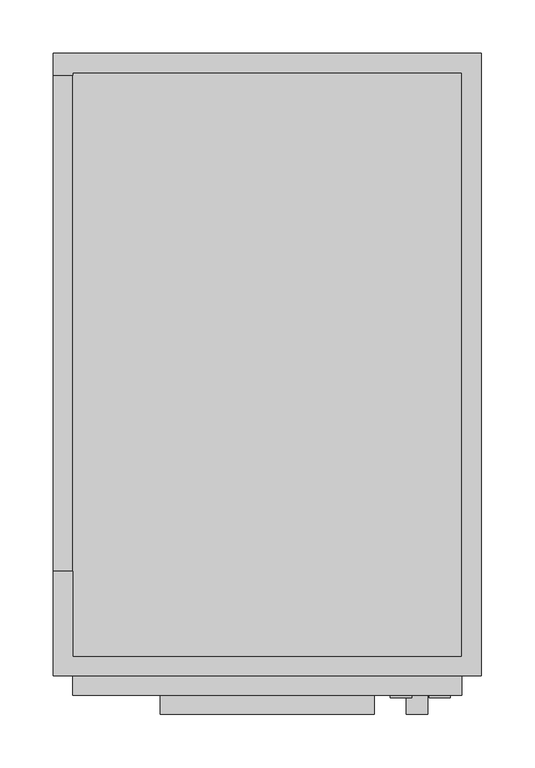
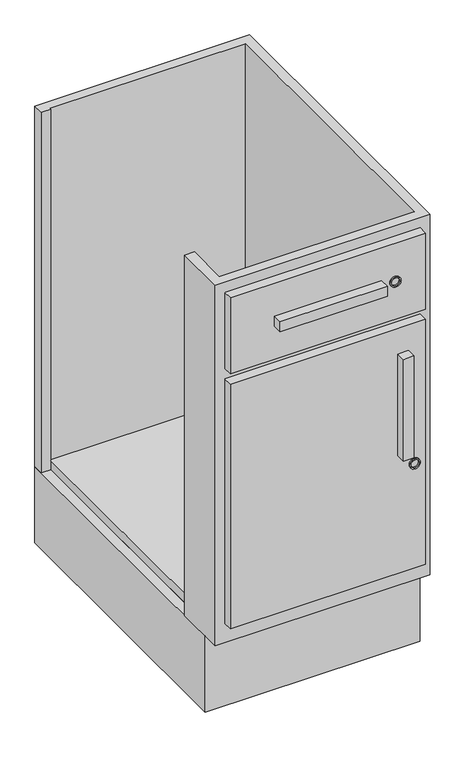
"""IFC4 building model written with IfcOpenShell, lengths in millimetres: proxy geometry, BIMHealth-400x600mm_Base_Unit_with_drawer_lockable-LOD2A-v1 : BIMHealth-400x600mm_Base_Unit_with_drawer_lockable-LOD2A-v1."""

import ifcopenshell
import ifcopenshell.guid

model = None  # the IFC model being written
_history = None  # IfcOwnerHistory: only IFC2X3 demands one
_inside = {}  # id of a spatial element -> (the spatial element, [elements in it])
_under = {}  # id of a project, library or spatial element -> (it, [spatial elements below it])
_declared = {}  # id of a project -> (the project, [libraries it declares])
_typed = {}  # id of a type object -> (the type object, [elements of that type])
_made_of = {}  # id of a material, layer set ... -> (it, [elements and type objects made of it])


def new_model(schema):
    """Start an empty IFC model of exactly this schema.

    Asked for "IFC4X3", IfcOpenShell would pick the latest addendum, in which some entities
    have other attributes; the version numbers below select the first issue.
    IFC2X3 requires an IfcOwnerHistory on every rooted entity: one is made here for all.
    """
    global model, _history
    if schema == "IFC4X3":
        model = ifcopenshell.file(schema_version=(4, 3, 0, 0))
    else:
        model = ifcopenshell.file(schema=schema)
    _inside.clear()
    _under.clear()
    _declared.clear()
    _typed.clear()
    _made_of.clear()
    _history = None
    if model.schema == "IFC2X3":
        org = make("IfcOrganization", Name="unknown")
        user = make(
            "IfcPersonAndOrganization",
            ThePerson=make("IfcPerson", FamilyName="unknown"),
            TheOrganization=org,
        )
        app = make(
            "IfcApplication",
            ApplicationDeveloper=org,
            Version="unknown",
            ApplicationFullName="unknown",
            ApplicationIdentifier="unknown",
        )
        _history = make(
            "IfcOwnerHistory",
            OwningUser=user,
            OwningApplication=app,
            ChangeAction="ADDED",
            CreationDate=0,
        )
    return model


def make(cls, **values):
    """One entity of the class cls with the attributes given. An attribute that is None is left unset."""
    return model.create_entity(
        cls, **{name: value for name, value in values.items() if value is not None}
    )


def rooted(cls, **values):
    """An entity with a GlobalId (a new one), such as an element, a storey or a relation."""
    return make(cls, GlobalId=ifcopenshell.guid.new(), OwnerHistory=_history, **values)


def si_unit(unit_type, name, prefix=None):
    """IfcSIUnit, for example si_unit("LENGTHUNIT", "METRE", prefix="MILLI")."""
    return make("IfcSIUnit", UnitType=unit_type, Prefix=prefix, Name=name)


def assignment(units):
    """IfcUnitAssignment: the units of a project."""
    return None if units is None else make("IfcUnitAssignment", Units=units)


def point(xyz):
    """IfcCartesianPoint."""
    return None if xyz is None else make("IfcCartesianPoint", Coordinates=xyz)


def direction(xyz):
    """IfcDirection."""
    return None if xyz is None else make("IfcDirection", DirectionRatios=xyz)


def frame(location, z_axis=None, x_axis=None):
    """IfcAxis2Placement3D, a coordinate frame: its origin and axes. An axis left out is left unset."""
    return make(
        "IfcAxis2Placement3D",
        Location=point(location),
        Axis=direction(z_axis),
        RefDirection=direction(x_axis),
    )


def frame_2d(location, x_axis=None):
    """IfcAxis2Placement2D, a coordinate frame in the plane: its origin and x axis."""
    return make(
        "IfcAxis2Placement2D", Location=point(location), RefDirection=direction(x_axis)
    )


def origin():
    """The frame at (0, 0, 0) with its axes left unset."""
    return frame((0.0, 0.0, 0.0))


def origin_with_axes():
    """The frame at (0, 0, 0) with the z axis (0, 0, 1) and the x axis (1, 0, 0) written out."""
    return frame((0.0, 0.0, 0.0), z_axis=(0.0, 0.0, 1.0), x_axis=(1.0, 0.0, 0.0))


def place(relative_to, where):
    """IfcLocalPlacement: puts the frame where relative to a parent placement (None: the world)."""
    return make(
        "IfcLocalPlacement", PlacementRelTo=relative_to, RelativePlacement=where
    )


def context(
    kind, dimensions, precision=None, world=None, true_north=None, identifier=None
):
    """IfcGeometricRepresentationContext, for example the 3D "Model" context."""
    return make(
        "IfcGeometricRepresentationContext",
        ContextIdentifier=identifier,
        ContextType=kind,
        CoordinateSpaceDimension=dimensions,
        Precision=precision,
        WorldCoordinateSystem=world,
        TrueNorth=true_north,
    )


def project(units=None, contexts=None):
    """IfcProject with its units and contexts."""
    return rooted(
        "IfcProject",
        Name="project",
        RepresentationContexts=contexts,
        UnitsInContext=assignment(units),
    )


def spatial(cls, under=None, at=None, **own):
    """A site, building, storey or space (cls), placed at a placement, below another one or the project."""
    s = rooted(cls, ObjectPlacement=at, **own)
    if under is not None:
        _under.setdefault(under.id(), (under, []))[1].append(s)
    return s


def polyline(points):
    """IfcPolyline through the points."""
    return make("IfcPolyline", Points=[point(p) for p in points])


def circle_curve(where, radius):
    """IfcCircle in the frame where."""
    return make("IfcCircle", Position=where, Radius=radius)


def trimmed(basis, trim1, trim2, sense, master):
    """IfcTrimmedCurve: the piece of a basis curve between two trims."""
    return make(
        "IfcTrimmedCurve",
        BasisCurve=basis,
        Trim1=trim1,
        Trim2=trim2,
        SenseAgreement=sense,
        MasterRepresentation=master,
    )


def segment(curve, same_sense, transition):
    """IfcCompositeCurveSegment."""
    return make(
        "IfcCompositeCurveSegment",
        Transition=transition,
        SameSense=same_sense,
        ParentCurve=curve,
    )


def composite_curve(segments, self_intersect=None):
    """IfcCompositeCurve: segments joined end to end."""
    return make("IfcCompositeCurve", Segments=segments, SelfIntersect=self_intersect)


def outline(outer, holes=None, kind="AREA"):
    """IfcArbitraryClosedProfileDef: a profile drawn as a closed curve; with holes, ...WithVoids."""
    if holes is None:
        return make("IfcArbitraryClosedProfileDef", ProfileType=kind, OuterCurve=outer)
    return make(
        "IfcArbitraryProfileDefWithVoids",
        ProfileType=kind,
        OuterCurve=outer,
        InnerCurves=holes,
    )


def extrude(swept, where, along, depth):
    """IfcExtrudedAreaSolid: the profile swept, set in the frame where, extruded along a direction by depth."""
    return make(
        "IfcExtrudedAreaSolid",
        SweptArea=swept,
        Position=where,
        ExtrudedDirection=direction(along),
        Depth=depth,
    )


def faces_of(points, faces, orient=None, outer=None):
    """IfcFace entities. A face is a list of loops; a loop is a list of indices into points, from 0.

    orient and outer hold one flag for each loop. By default every Orientation is true, the
    first loop of a face is its IfcFaceOuterBound and the others are IfcFaceBound.
    """
    made = []
    for i, loops in enumerate(faces):
        bounds = []
        for j, loop in enumerate(loops):
            is_outer = j == 0 if outer is None else outer[i][j]
            bounds.append(
                make(
                    "IfcFaceOuterBound" if is_outer else "IfcFaceBound",
                    Bound=make("IfcPolyLoop", Polygon=[points[k] for k in loop]),
                    Orientation=True if orient is None else orient[i][j],
                )
            )
        made.append(make("IfcFace", Bounds=bounds))
    return made


def faceted_brep(points, faces, orient=None, outer=None, voids=None):
    """IfcFacetedBrep: a solid bounded by flat faces; with voids (closed shells), ...WithVoids."""
    shared = [point(p) for p in points]
    hull = make("IfcClosedShell", CfsFaces=faces_of(shared, faces, orient, outer))
    if voids is None:
        return make("IfcFacetedBrep", Outer=hull)
    return make(
        "IfcFacetedBrepWithVoids",
        Outer=hull,
        Voids=[
            make(cls, CfsFaces=faces_of(shared, fs, o, b)) for cls, fs, o, b in voids
        ],
    )


def shape(context_of_items, identifier, shape_type, items):
    """IfcShapeRepresentation: the items that make up one representation, for example the "Body"."""
    return make(
        "IfcShapeRepresentation",
        ContextOfItems=context_of_items,
        RepresentationIdentifier=identifier,
        RepresentationType=shape_type,
        Items=items,
    )


def source(mapping_origin, context_of_items, identifier, shape_type, items):
    """IfcRepresentationMap: a shape defined once, which mapped items show again and again."""
    return make(
        "IfcRepresentationMap",
        MappingOrigin=mapping_origin,
        MappedRepresentation=shape(context_of_items, identifier, shape_type, items),
    )


def transform(
    local_origin,
    x_axis=None,
    y_axis=None,
    z_axis=None,
    scale=None,
    scale2=None,
    scale3=None,
    uniform=True,
):
    """IfcCartesianTransformationOperator3D, or its non-uniform kind. x_axis, y_axis, z_axis: its Axis1, 2, 3."""
    if uniform:
        return make(
            "IfcCartesianTransformationOperator3D",
            Axis1=direction(x_axis),
            Axis2=direction(y_axis),
            LocalOrigin=point(local_origin),
            Scale=scale,
            Axis3=direction(z_axis),
        )
    return make(
        "IfcCartesianTransformationOperator3DnonUniform",
        Axis1=direction(x_axis),
        Axis2=direction(y_axis),
        LocalOrigin=point(local_origin),
        Scale=scale,
        Axis3=direction(z_axis),
        Scale2=scale2,
        Scale3=scale3,
    )


def mapped(mapping_source, mapping_target):
    """IfcMappedItem: shows the shape of a source again, moved by a transform."""
    return make(
        "IfcMappedItem", MappingSource=mapping_source, MappingTarget=mapping_target
    )


def made_of(thing, what):
    """Note that an element or type object is made of a material, layer set ...; save() writes the relation."""
    if what is not None:
        _made_of.setdefault(what.id(), (what, []))[1].append(thing)
    return thing


def element(
    cls,
    number,
    at=None,
    inside=None,
    cuts=None,
    type_object=None,
    material=None,
    context=None,
    identifier="Body",
    shape_type=None,
    held_by="IfcProductDefinitionShape",
    body=None,
    shapes=None,
    **own,
):
    """One element of the class cls, such as IfcWall. Its Tag is "e" and its number.

    at: its placement. inside: the storey or other place that contains it. cuts: it is an
    opening in that element (IfcRelVoidsElement). A single representation is given by context,
    identifier, shape_type and body (its items); several are given by shapes. held_by: the class
    of the entity that holds the representations. save() writes the other relations.
    """
    e = rooted(cls, Tag="e%d" % number, ObjectPlacement=at, **own)
    if body is not None:
        shapes = [shape(context, identifier, shape_type, body)]
    if shapes is not None:
        e.Representation = make(held_by, Representations=shapes)
    if inside is not None:
        _inside.setdefault(inside.id(), (inside, []))[1].append(e)
    if cuts is not None:
        rooted(
            "IfcRelVoidsElement", RelatingBuildingElement=cuts, RelatedOpeningElement=e
        )
    if type_object is not None:
        _typed.setdefault(type_object.id(), (type_object, []))[1].append(e)
    return made_of(e, material)


def aggregate(whole, parts):
    """IfcRelAggregates: a whole, such as a stair, and the parts it consists of."""
    return rooted("IfcRelAggregates", RelatingObject=whole, RelatedObjects=parts)


def save(model, path):
    """Write the relations noted so far, then the file.

    IfcRelAggregates (storeys below a building ...), IfcRelContainedInSpatialStructure (elements
    in a storey), IfcRelDefinesByType, IfcRelAssociatesMaterial and IfcRelDeclares: one each for
    every whole, place, type object, material and project.
    """
    for whole, parts in _under.values():
        aggregate(whole, parts)
    for where, things in _inside.values():
        rooted(
            "IfcRelContainedInSpatialStructure",
            RelatedElements=things,
            RelatingStructure=where,
        )
    for kind, things in _typed.values():
        rooted("IfcRelDefinesByType", RelatedObjects=things, RelatingType=kind)
    for what, things in _made_of.values():
        rooted("IfcRelAssociatesMaterial", RelatedObjects=things, RelatingMaterial=what)
    for by, libraries in _declared.values():
        rooted("IfcRelDeclares", RelatingContext=by, RelatedDefinitions=libraries)
    model.write(path)


def generic_models_4d1d25b3(model_context):
    return source(origin(), model_context, "Body", "SolidModel", [
        extrude(outline(composite_curve([segment(trimmed(circle_curve(frame_2d((394.5110604, 361.1811485)), 10.0), [point((394.5110604, 351.1811485))], [point((394.5110604, 371.1811485))], False, "CARTESIAN"), True, "CONTINUOUS"), segment(trimmed(circle_curve(frame_2d((394.5110604, 361.1811485)), 10.0), [point((394.5110604, 371.1811485))], [point((394.5110604, 351.1811485))], False, "CARTESIAN"), True, "CONTINUOUS")], self_intersect=False), holes=[composite_curve([segment(trimmed(circle_curve(frame_2d((394.5110604, 361.1811485)), 7.5), [point((394.5110604, 353.6811485))], [point((394.5110604, 368.6811485))], True, "CARTESIAN"), True, "CONTINUOUS"), segment(trimmed(circle_curve(frame_2d((394.5110604, 361.1811485)), 7.5), [point((394.5110604, 368.6811485))], [point((394.5110604, 353.6811485))], True, "CARTESIAN"), True, "CONTINUOUS")], self_intersect=False)]), frame((0.0, -602.5, 0.0), z_axis=(0.0, 1.0, 0.0), x_axis=(0.0, 0.0, 1.0)), (0.0, 0.0, 1.0), 2.5),
        extrude(outline(composite_curve([segment(trimmed(circle_curve(frame_2d((765.0, 325.0)), 10.0), [point((765.0, 315.0))], [point((765.0, 335.0))], False, "CARTESIAN"), True, "CONTINUOUS"), segment(trimmed(circle_curve(frame_2d((765.0, 325.0)), 10.0), [point((765.0, 335.0))], [point((765.0, 315.0))], False, "CARTESIAN"), True, "CONTINUOUS")], self_intersect=False), holes=[composite_curve([segment(trimmed(circle_curve(frame_2d((765.0, 325.0)), 7.5), [point((765.0, 317.5))], [point((765.0, 332.5))], True, "CARTESIAN"), True, "CONTINUOUS"), segment(trimmed(circle_curve(frame_2d((765.0, 325.0)), 7.5), [point((765.0, 332.5))], [point((765.0, 317.5))], True, "CARTESIAN"), True, "CONTINUOUS")], self_intersect=False)]), frame((0.0, -602.5, 0.0), z_axis=(0.0, 1.0, 0.0), x_axis=(0.0, 0.0, 1.0)), (0.0, 0.0, 1.0), 2.5),
        faceted_brep([(400.0, -582.0, 150.0), (0.0, -582.0, 150.0), (0.0, -484.0, 150.0), (18.0, -484.0, 150.0), (18.0, -20.3306335, 150.0), (0.0, -20.3306335, 150.0), (0.0, 0.0, 150.0), (400.0, 0.0, 150.0), (382.0, -18.0, 860.0), (18.0, -18.0, 860.0), (18.0, -18.0, 168.0), (382.0, -18.0, 168.0), (382.0, -564.0, 860.0), (382.0, -564.0, 168.0), (18.0, -564.0, 860.0), (18.0, -564.0, 168.0), (18.0, -20.3306335, 168.0), (18.0, -484.0, 168.0), (400.0, -582.0, 860.0), (400.0, 0.0, 860.0), (0.0, 0.0, 860.0), (0.0, -20.3306335, 860.0), (18.0, -20.3306335, 860.0), (18.0, -484.0, 860.0), (0.0, -484.0, 860.0), (0.0, -582.0, 860.0)], [[[0, 1, 2, 3, 4, 5, 6, 7]], [[8, 9, 10, 11]], [[12, 8, 11, 13]], [[14, 12, 13, 15]], [[16, 17, 15, 13, 11, 10]], [[18, 19, 20, 21, 22, 9, 8, 12, 14, 23, 24, 25]], [[19, 18, 0, 7]], [[20, 19, 7, 6]], [[18, 25, 1, 0]], [[4, 3, 17, 16]], [[21, 20, 6, 5]], [[22, 21, 5, 4, 16]], [[9, 22, 16, 10]], [[23, 14, 15, 17]], [[24, 23, 17, 3, 2]], [[25, 24, 2, 1]]]),
        extrude(outline(polyline([(300.0, -618.0), (100.0, -618.0), (100.0, -600.0), (300.0, -600.0), (300.0, -618.0)])), frame((0.0, 0.0, 755.0), z_axis=(0.0, 0.0, 1.0), x_axis=(1.0, 0.0, 0.0)), (0.0, 0.0, 1.0), 20.0),
        extrude(outline(polyline([(350.0, -618.0), (330.0, -618.0), (330.0, -600.0), (350.0, -600.0), (350.0, -618.0)])), frame((0.0, 0.0, 420.0), z_axis=(0.0, 0.0, 1.0), x_axis=(1.0, 0.0, 0.0)), (0.0, 0.0, 1.0), 200.0),
        extrude(outline(polyline([(382.0, -582.0), (382.0, -600.0), (18.0, -600.0), (18.0, -582.0), (382.0, -582.0)])), frame((0.0, 0.0, 690.0), z_axis=(0.0, 0.0, 1.0), x_axis=(1.0, 0.0, 0.0)), (0.0, 0.0, 1.0), 150.0),
        extrude(outline(polyline([(382.0, -582.0), (382.0, -600.0), (18.0, -600.0), (18.0, -582.0), (382.0, -582.0)])), frame((0.0, 0.0, 188.0), z_axis=(0.0, 0.0, 1.0), x_axis=(1.0, 0.0, 0.0)), (0.0, 0.0, 1.0), 482.0),
        extrude(outline(polyline([(400.0, 0.0), (400.0, -550.0), (0.0, -550.0), (0.0, 0.0), (400.0, 0.0)]), holes=[polyline([(382.0, -18.0), (18.0, -18.0), (18.0, -532.0), (382.0, -532.0), (382.0, -18.0)])]), origin_with_axes(), (0.0, 0.0, 1.0), 150.0),
    ])


if __name__ == "__main__":
    model = new_model("IFC4")
    model_context = context("Model", 3, world=origin())
    ifc_project = project(units=[si_unit("LENGTHUNIT", "METRE", prefix="MILLI")], contexts=[model_context])
    site = spatial("IfcSite", under=ifc_project)
    building = spatial("IfcBuilding", under=site)
    placement = place(None, origin())
    generic_models_shape = generic_models_4d1d25b3(model_context)
    element("IfcBuildingElementProxy", 1, Name="BIMHealth-400x600mm_Base_Unit_with_drawer_lockable-LOD2A-v1 : BIMHealth-400x600mm_Base_Unit_with_drawer_lockable-LOD2A-v1", ObjectType="BIMHealth-400x600mm_Base_Unit_with_drawer_lockable-LOD2A-v1 : BIMHealth-400x600mm_Base_Unit_with_drawer_lockable-LOD2A-v1", at=placement, inside=building, context=model_context, shape_type="MappedRepresentation", body=[
        mapped(generic_models_shape, transform((0.0, 0.0, 0.0), x_axis=(1.0, 0.0, 0.0), y_axis=(0.0, 1.0, 0.0), z_axis=(0.0, 0.0, 1.0))),
    ])
    save(model, "model.ifc")
